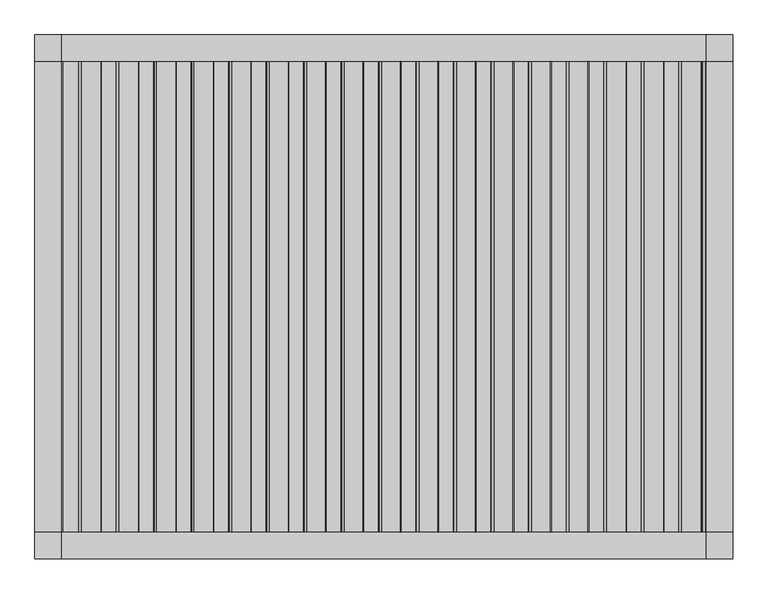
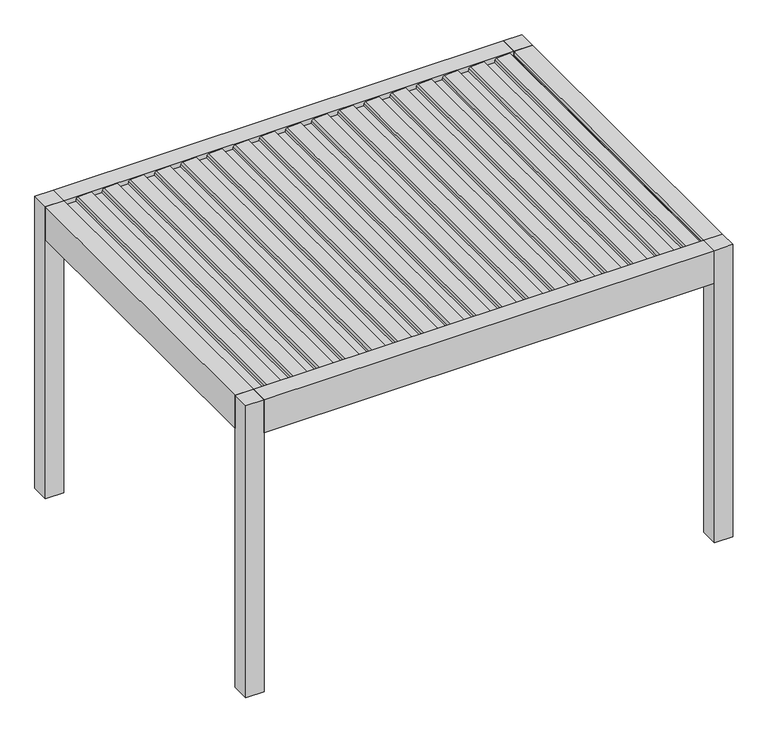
"""IFC4 building model written with IfcOpenShell, lengths in millimetres: proxy geometry, Renson_Amani_Patio_Cover : Renson_Amani_Patio_Cover."""

from ifc_helpers import new_model, si_unit, point, frame, frame_2d, origin, origin_with_axes, place, context, project, spatial, polyline, circle_curve, trimmed, segment, composite_curve, outline, extrude, source, transform, mapped, element, save


def generic_models_eb283adb(model_context):
    return source(origin(), model_context, "Body", "SweptSolid", [
        extrude(outline(composite_curve([segment(polyline([(2483.35, 1573.7338351), (2511.01198, 1576.1539448), (2512.3970364, 1604.9891952), (2531.8911096, 1601.5518641), (2526.6075693, 1491.5547493)]), True, "CONTINUOUS"), segment(trimmed(circle_curve(frame_2d((2511.6248435, 1492.2744212)), 15.0), [point((2526.6075693, 1491.5547493))], [point((2514.2295662, 1477.5023049))], False, "CARTESIAN"), True, "CONTINUOUS"), segment(polyline([(2514.2295662, 1477.5023049), (2495.0, 1474.1116136), (2495.0, 1386.3758376), (2512.0788237, 1383.3643801), (2511.3450182, 1368.0874097), (2483.35, 1365.6381629), (2483.35, 1573.7338351)]), True, "CONTINUOUS")], self_intersect=False)), frame((0.0, -1350.0, 0.0), z_axis=(0.0, 1.0, 0.0), x_axis=(0.0, 0.0, 1.0)), (0.0, 0.0, 1.0), 2700.0),
        extrude(outline(composite_curve([segment(polyline([(2483.35, 1358.7230303), (2511.01198, 1361.14314), (2512.3970364, 1389.9783904), (2531.8911096, 1386.5410594), (2526.6075693, 1276.5439445)]), True, "CONTINUOUS"), segment(trimmed(circle_curve(frame_2d((2511.6248435, 1277.2636164)), 15.0), [point((2526.6075693, 1276.5439445))], [point((2514.2295662, 1262.4915001))], False, "CARTESIAN"), True, "CONTINUOUS"), segment(polyline([(2514.2295662, 1262.4915001), (2495.0, 1259.1008088), (2495.0, 1171.3650328), (2512.0788237, 1168.3535754), (2511.3450182, 1153.0766049), (2483.35, 1150.6273582), (2483.35, 1358.7230303)]), True, "CONTINUOUS")], self_intersect=False)), frame((0.0, -1350.0, 0.0), z_axis=(0.0, 1.0, 0.0), x_axis=(0.0, 0.0, 1.0)), (0.0, 0.0, 1.0), 2700.0),
        extrude(outline(composite_curve([segment(polyline([(2483.35, 1143.7122255), (2511.01198, 1146.1323352), (2512.3970364, 1174.9675857), (2531.8911096, 1171.5302546), (2526.6075693, 1061.5331397)]), True, "CONTINUOUS"), segment(trimmed(circle_curve(frame_2d((2511.6248435, 1062.2528117)), 15.0), [point((2526.6075693, 1061.5331397))], [point((2514.2295662, 1047.4806954))], False, "CARTESIAN"), True, "CONTINUOUS"), segment(polyline([(2514.2295662, 1047.4806954), (2495.0, 1044.090004), (2495.0, 956.354228), (2512.0788237, 953.3427706), (2511.3450182, 938.0658001), (2483.35, 935.6165534), (2483.35, 1143.7122255)]), True, "CONTINUOUS")], self_intersect=False)), frame((0.0, -1350.0, 0.0), z_axis=(0.0, 1.0, 0.0), x_axis=(0.0, 0.0, 1.0)), (0.0, 0.0, 1.0), 2700.0),
        extrude(outline(composite_curve([segment(polyline([(2483.35, 928.7014208), (2511.01198, 931.1215304), (2512.3970364, 959.9567809), (2531.8911096, 956.5194498), (2526.6075693, 846.5223349)]), True, "CONTINUOUS"), segment(trimmed(circle_curve(frame_2d((2511.6248435, 847.2420069)), 15.0), [point((2526.6075693, 846.5223349))], [point((2514.2295662, 832.4698906))], False, "CARTESIAN"), True, "CONTINUOUS"), segment(polyline([(2514.2295662, 832.4698906), (2495.0, 829.0791992), (2495.0, 741.3434232), (2512.0788237, 738.3319658), (2511.3450182, 723.0549953), (2483.35, 720.6057486), (2483.35, 928.7014208)]), True, "CONTINUOUS")], self_intersect=False)), frame((0.0, -1350.0, 0.0), z_axis=(0.0, 1.0, 0.0), x_axis=(0.0, 0.0, 1.0)), (0.0, 0.0, 1.0), 2700.0),
        extrude(outline(composite_curve([segment(polyline([(2483.35, 713.690616), (2511.01198, 716.1107256), (2512.3970364, 744.9459761), (2531.8911096, 741.508645), (2526.6075693, 631.5115302)]), True, "CONTINUOUS"), segment(trimmed(circle_curve(frame_2d((2511.6248435, 632.2312021)), 15.0), [point((2526.6075693, 631.5115302))], [point((2514.2295662, 617.4590858))], False, "CARTESIAN"), True, "CONTINUOUS"), segment(polyline([(2514.2295662, 617.4590858), (2495.0, 614.0683945), (2495.0, 526.3326184), (2512.0788237, 523.321161), (2511.3450182, 508.0441905), (2483.35, 505.5949438), (2483.35, 713.690616)]), True, "CONTINUOUS")], self_intersect=False)), frame((0.0, -1350.0, 0.0), z_axis=(0.0, 1.0, 0.0), x_axis=(0.0, 0.0, 1.0)), (0.0, 0.0, 1.0), 2700.0),
        extrude(outline(composite_curve([segment(polyline([(2483.35, 498.6798112), (2511.01198, 501.0999209), (2512.3970364, 529.9351713), (2531.8911096, 526.4978402), (2526.6075693, 416.5007254)]), True, "CONTINUOUS"), segment(trimmed(circle_curve(frame_2d((2511.6248435, 417.2203973)), 15.0), [point((2526.6075693, 416.5007254))], [point((2514.2295662, 402.448281))], False, "CARTESIAN"), True, "CONTINUOUS"), segment(polyline([(2514.2295662, 402.448281), (2495.0, 399.0575897), (2495.0, 311.3218136), (2512.0788237, 308.3103562), (2511.3450182, 293.0333858), (2483.35, 290.584139), (2483.35, 498.6798112)]), True, "CONTINUOUS")], self_intersect=False)), frame((0.0, -1350.0, 0.0), z_axis=(0.0, 1.0, 0.0), x_axis=(0.0, 0.0, 1.0)), (0.0, 0.0, 1.0), 2700.0),
        extrude(outline(composite_curve([segment(polyline([(2483.35, 283.6690064), (2511.01198, 286.0891161), (2512.3970364, 314.9243665), (2531.8911096, 311.4870355), (2526.6075693, 201.4899206)]), True, "CONTINUOUS"), segment(trimmed(circle_curve(frame_2d((2511.6248435, 202.2095925)), 15.0), [point((2526.6075693, 201.4899206))], [point((2514.2295662, 187.4374762))], False, "CARTESIAN"), True, "CONTINUOUS"), segment(polyline([(2514.2295662, 187.4374762), (2495.0, 184.0467849), (2495.0, 96.3110089), (2512.0788237, 93.2995515), (2511.3450182, 78.022581), (2483.35, 75.5733343), (2483.35, 283.6690064)]), True, "CONTINUOUS")], self_intersect=False)), frame((0.0, -1350.0, 0.0), z_axis=(0.0, 1.0, 0.0), x_axis=(0.0, 0.0, 1.0)), (0.0, 0.0, 1.0), 2700.0),
        extrude(outline(composite_curve([segment(polyline([(2483.35, 68.6582016), (2511.01198, 71.0783113), (2512.3970364, 99.9135617), (2531.8911096, 96.4762307), (2526.6075693, -13.5208842)]), True, "CONTINUOUS"), segment(trimmed(circle_curve(frame_2d((2511.6248435, -12.8012122)), 15.0), [point((2526.6075693, -13.5208842))], [point((2514.2295662, -27.5733285))], False, "CARTESIAN"), True, "CONTINUOUS"), segment(polyline([(2514.2295662, -27.5733285), (2495.0, -30.9640199), (2495.0, -118.6997959), (2512.0788237, -121.7112533), (2511.3450182, -136.9882238), (2483.35, -139.4374705), (2483.35, 68.6582016)]), True, "CONTINUOUS")], self_intersect=False)), frame((0.0, -1350.0, 0.0), z_axis=(0.0, 1.0, 0.0), x_axis=(0.0, 0.0, 1.0)), (0.0, 0.0, 1.0), 2700.0),
        extrude(outline(composite_curve([segment(polyline([(2483.35, -146.3526032), (2511.01198, -143.9324935), (2512.3970364, -115.097243), (2531.8911096, -118.5345741), (2526.6075693, -228.531689)]), True, "CONTINUOUS"), segment(trimmed(circle_curve(frame_2d((2511.6248435, -227.812017)), 15.0), [point((2526.6075693, -228.531689))], [point((2514.2295662, -242.5841333))], False, "CARTESIAN"), True, "CONTINUOUS"), segment(polyline([(2514.2295662, -242.5841333), (2495.0, -245.9748247), (2495.0, -333.7106007), (2512.0788237, -336.7220581), (2511.3450182, -351.9990286), (2483.35, -354.4482753), (2483.35, -146.3526032)]), True, "CONTINUOUS")], self_intersect=False)), frame((0.0, -1350.0, 0.0), z_axis=(0.0, 1.0, 0.0), x_axis=(0.0, 0.0, 1.0)), (0.0, 0.0, 1.0), 2700.0),
        extrude(outline(composite_curve([segment(polyline([(2483.35, -361.3634079), (2511.01198, -358.9432983), (2512.3970364, -330.1080478), (2531.8911096, -333.5453789), (2526.6075693, -443.5424937)]), True, "CONTINUOUS"), segment(trimmed(circle_curve(frame_2d((2511.6248435, -442.8228218)), 15.0), [point((2526.6075693, -443.5424937))], [point((2514.2295662, -457.5949381))], False, "CARTESIAN"), True, "CONTINUOUS"), segment(polyline([(2514.2295662, -457.5949381), (2495.0, -460.9856294), (2495.0, -548.7214055), (2512.0788237, -551.7328629), (2511.3450182, -567.0098334), (2483.35, -569.4590801), (2483.35, -361.3634079)]), True, "CONTINUOUS")], self_intersect=False)), frame((0.0, -1350.0, 0.0), z_axis=(0.0, 1.0, 0.0), x_axis=(0.0, 0.0, 1.0)), (0.0, 0.0, 1.0), 2700.0),
        extrude(outline(composite_curve([segment(polyline([(2483.35, -576.3742127), (2511.01198, -573.9541031), (2512.3970364, -545.1188526), (2531.8911096, -548.5561837), (2526.6075693, -658.5532985)]), True, "CONTINUOUS"), segment(trimmed(circle_curve(frame_2d((2511.6248435, -657.8336266)), 15.0), [point((2526.6075693, -658.5532985))], [point((2514.2295662, -672.6057429))], False, "CARTESIAN"), True, "CONTINUOUS"), segment(polyline([(2514.2295662, -672.6057429), (2495.0, -675.9964342), (2495.0, -763.7322103), (2512.0788237, -766.7436677), (2511.3450182, -782.0206381), (2483.35, -784.4698849), (2483.35, -576.3742127)]), True, "CONTINUOUS")], self_intersect=False)), frame((0.0, -1350.0, 0.0), z_axis=(0.0, 1.0, 0.0), x_axis=(0.0, 0.0, 1.0)), (0.0, 0.0, 1.0), 2700.0),
        extrude(outline(composite_curve([segment(polyline([(2483.35, -791.3850175), (2511.01198, -788.9649078), (2512.3970364, -760.1296574), (2531.8911096, -763.5669885), (2526.6075693, -873.5641033)]), True, "CONTINUOUS"), segment(trimmed(circle_curve(frame_2d((2511.6248435, -872.8444314)), 15.0), [point((2526.6075693, -873.5641033))], [point((2514.2295662, -887.6165477))], False, "CARTESIAN"), True, "CONTINUOUS"), segment(polyline([(2514.2295662, -887.6165477), (2495.0, -891.007239), (2495.0, -978.743015), (2512.0788237, -981.7544725), (2511.3450182, -997.0314429), (2483.35, -999.4806897), (2483.35, -791.3850175)]), True, "CONTINUOUS")], self_intersect=False)), frame((0.0, -1350.0, 0.0), z_axis=(0.0, 1.0, 0.0), x_axis=(0.0, 0.0, 1.0)), (0.0, 0.0, 1.0), 2700.0),
        extrude(outline(composite_curve([segment(polyline([(2483.35, -1006.3958223), (2511.01198, -1003.9757126), (2512.3970364, -975.1404622), (2531.8911096, -978.5777932), (2526.6075693, -1088.5749081)]), True, "CONTINUOUS"), segment(trimmed(circle_curve(frame_2d((2511.6248435, -1087.8552362)), 15.0), [point((2526.6075693, -1088.5749081))], [point((2514.2295662, -1102.6273525))], False, "CARTESIAN"), True, "CONTINUOUS"), segment(polyline([(2514.2295662, -1102.6273525), (2495.0, -1106.0180438), (2495.0, -1193.7538198), (2512.0788237, -1196.7652772), (2511.3450182, -1212.0422477), (2483.35, -1214.4914944), (2483.35, -1006.3958223)]), True, "CONTINUOUS")], self_intersect=False)), frame((0.0, -1350.0, 0.0), z_axis=(0.0, 1.0, 0.0), x_axis=(0.0, 0.0, 1.0)), (0.0, 0.0, 1.0), 2700.0),
        extrude(outline(composite_curve([segment(polyline([(2483.35, -1221.4066271), (2511.01198, -1218.9865174), (2512.3970364, -1190.1512669), (2531.8911096, -1193.588598), (2526.6075693, -1303.5857129)]), True, "CONTINUOUS"), segment(trimmed(circle_curve(frame_2d((2511.6248435, -1302.8660409)), 15.0), [point((2526.6075693, -1303.5857129))], [point((2514.2295662, -1317.6381572))], False, "CARTESIAN"), True, "CONTINUOUS"), segment(polyline([(2514.2295662, -1317.6381572), (2495.0, -1321.0288486), (2495.0, -1408.7646246), (2512.0788237, -1411.776082), (2511.3450182, -1427.0530525), (2483.35, -1429.5022992), (2483.35, -1221.4066271)]), True, "CONTINUOUS")], self_intersect=False)), frame((0.0, -1350.0, 0.0), z_axis=(0.0, 1.0, 0.0), x_axis=(0.0, 0.0, 1.0)), (0.0, 0.0, 1.0), 2700.0),
        extrude(outline(composite_curve([segment(polyline([(2483.35, -1436.4174318), (2511.01198, -1433.9973222), (2512.3970364, -1405.1620717), (2531.8911096, -1408.5994028), (2526.6075693, -1518.5965176)]), True, "CONTINUOUS"), segment(trimmed(circle_curve(frame_2d((2511.6248435, -1517.8768457)), 15.0), [point((2526.6075693, -1518.5965176))], [point((2514.2295662, -1532.648962))], False, "CARTESIAN"), True, "CONTINUOUS"), segment(polyline([(2514.2295662, -1532.648962), (2495.0, -1536.0396534), (2495.0, -1623.7754294), (2512.0788237, -1626.7868868), (2511.3450182, -1642.0638573), (2483.35, -1644.513104), (2483.35, -1436.4174318)]), True, "CONTINUOUS")], self_intersect=False)), frame((0.0, -1350.0, 0.0), z_axis=(0.0, 1.0, 0.0), x_axis=(0.0, 0.0, 1.0)), (0.0, 0.0, 1.0), 2700.0),
        extrude(outline(composite_curve([segment(polyline([(2483.35, 1788.7446399), (2511.01198, 1791.1647495), (2512.3970364, 1820.0), (2531.8911096, 1816.5626689), (2526.6075693, 1706.5655541)]), True, "CONTINUOUS"), segment(trimmed(circle_curve(frame_2d((2511.6248435, 1707.285226)), 15.0), [point((2526.6075693, 1706.5655541))], [point((2514.2295662, 1692.5131097))], False, "CARTESIAN"), True, "CONTINUOUS"), segment(polyline([(2514.2295662, 1692.5131097), (2495.0, 1689.1224184), (2495.0, 1601.3866423), (2512.0788237, 1598.3751849), (2511.3450182, 1583.0982144), (2483.35, 1580.6489677), (2483.35, 1788.7446399)]), True, "CONTINUOUS")], self_intersect=False)), frame((0.0, -1350.0, 0.0), z_axis=(0.0, 1.0, 0.0), x_axis=(0.0, 0.0, 1.0)), (0.0, 0.0, 1.0), 2700.0),
        extrude(outline(composite_curve([segment(polyline([(2483.35, -1651.4282366), (2511.01198, -1649.008127), (2512.3970364, -1620.1728765), (2531.8911096, -1623.6102076), (2526.6075693, -1733.6073224)]), True, "CONTINUOUS"), segment(trimmed(circle_curve(frame_2d((2511.6248435, -1732.8876505)), 15.0), [point((2526.6075693, -1733.6073224))], [point((2514.2295662, -1747.6597668))], False, "CARTESIAN"), True, "CONTINUOUS"), segment(polyline([(2514.2295662, -1747.6597668), (2495.0, -1751.0504581), (2495.0, -1838.7862342), (2512.0788237, -1841.7976916), (2511.3450182, -1857.0746621), (2483.35, -1859.5239088), (2483.35, -1651.4282366)]), True, "CONTINUOUS")], self_intersect=False)), frame((0.0, -1350.0, 0.0), z_axis=(0.0, 1.0, 0.0), x_axis=(0.0, 0.0, 1.0)), (0.0, 0.0, 1.0), 2700.0),
        extrude(outline(polyline([(2000.0, -1350.0), (2000.0, -1500.0), (1850.0, -1500.0), (1850.0, -1350.0), (2000.0, -1350.0)])), origin_with_axes(), (0.0, 0.0, 1.0), 2535.0),
        extrude(outline(polyline([(2000.0, 1500.0), (2000.0, 1350.0), (1850.0, 1350.0), (1850.0, 1500.0), (2000.0, 1500.0)])), origin_with_axes(), (0.0, 0.0, 1.0), 2535.0),
        extrude(outline(polyline([(-1850.0, 1350.0), (-2000.0, 1350.0), (-2000.0, 1500.0), (-1850.0, 1500.0), (-1850.0, 1350.0)])), origin_with_axes(), (0.0, 0.0, 1.0), 2535.0),
        extrude(outline(polyline([(-1850.0, -1350.0), (-1850.0, -1500.0), (-2000.0, -1500.0), (-2000.0, -1350.0), (-1850.0, -1350.0)])), origin_with_axes(), (0.0, 0.0, 1.0), 2535.0),
        extrude(outline(polyline([(2466.6559373, -1850.0), (2466.6559373, -1824.0), (2480.6555802, -1820.2487113), (2480.6555802, -1829.5940945), (2496.400763, -1845.0), (2504.2449277, -1845.0), (2504.6823598, -1850.0), (2466.6559373, -1850.0)])), frame((0.0, -1350.0, 0.0), z_axis=(0.0, 1.0, 0.0), x_axis=(0.0, 0.0, 1.0)), (0.0, 0.0, 1.0), 2700.0),
        extrude(outline(polyline([(-1850.0, -1350.0), (-2000.0, -1350.0), (-2000.0, 1350.0), (-1850.0, 1350.0), (-1850.0, -1350.0)])), frame((0.0, 0.0, 2250.0), z_axis=(0.0, 0.0, 1.0), x_axis=(1.0, 0.0, 0.0)), (0.0, 0.0, 1.0), 285.0),
        extrude(outline(polyline([(2535.0, 2000.0), (2535.0, 1850.0), (2504.6904658, 1850.0), (2504.2449277, 1845.0), (2496.400763, 1845.0), (2480.6555802, 1829.2544156), (2480.6555802, 1819.9090324), (2466.6559373, 1823.6603211), (2466.6559373, 1850.0), (2250.0, 1850.0), (2250.0, 2000.0), (2535.0, 2000.0)])), frame((0.0, -1350.0, 0.0), z_axis=(0.0, 1.0, 0.0), x_axis=(0.0, 0.0, 1.0)), (0.0, 0.0, 1.0), 2700.0),
        extrude(outline(polyline([(-1350.0, 2535.0), (-1350.0, 2322.0), (-1280.0000001, 2322.0), (-1280.0000001, 2250.0), (-1500.0, 2250.0), (-1500.0, 2535.0), (-1350.0, 2535.0)])), frame((-1850.0, 0.0, 0.0), z_axis=(1.0, 0.0, 0.0), x_axis=(0.0, 1.0, 0.0)), (0.0, 0.0, 1.0), 3700.0),
        extrude(outline(polyline([(1500.0, 2250.0), (1280.0000001, 2250.0), (1280.0000001, 2322.0), (1350.0, 2322.0), (1350.0, 2535.0), (1500.0, 2535.0), (1500.0, 2250.0)])), frame((-1850.0, 0.0, 0.0), z_axis=(1.0, 0.0, 0.0), x_axis=(0.0, 1.0, 0.0)), (0.0, 0.0, 1.0), 3700.0),
    ])


if __name__ == "__main__":
    model = new_model("IFC4")
    model_context = context("Model", 3, world=origin())
    ifc_project = project(units=[si_unit("LENGTHUNIT", "METRE", prefix="MILLI")], contexts=[model_context])
    site = spatial("IfcSite", under=ifc_project)
    building = spatial("IfcBuilding", under=site)
    placement = place(None, origin())
    generic_models_shape = generic_models_eb283adb(model_context)
    element("IfcBuildingElementProxy", 1, Name="Renson_Amani_Patio_Cover : Renson_Amani_Patio_Cover", ObjectType="Renson_Amani_Patio_Cover : Renson_Amani_Patio_Cover", at=placement, inside=building, context=model_context, shape_type="MappedRepresentation", body=[
        mapped(generic_models_shape, transform((0.0, 0.0, 0.0), x_axis=(1.0, 0.0, 0.0), y_axis=(0.0, 1.0, 0.0), z_axis=(0.0, 0.0, 1.0))),
    ])
    save(model, "model.ifc")
